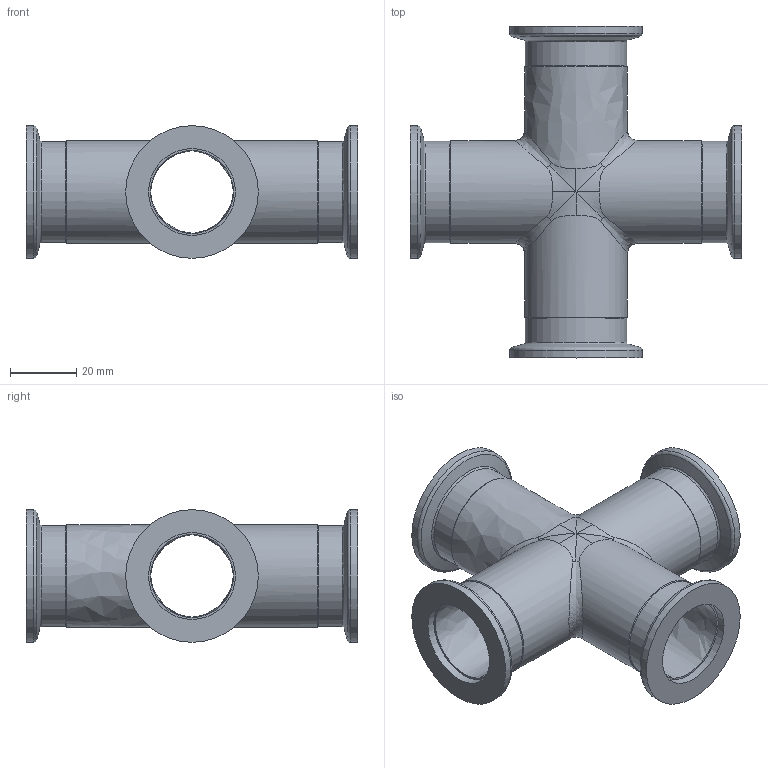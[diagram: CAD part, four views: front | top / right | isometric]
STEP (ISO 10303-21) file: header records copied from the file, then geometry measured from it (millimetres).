
FILE_DESCRIPTION((''),'2;1');
FILE_NAME('W:\M211-268.stp','2006-08-30T11:21:25',('KAA'),(''),'Autodesk Inventor 10','Autodesk Inventor 10','');
FILE_SCHEMA(('CONFIG_CONTROL_DESIGN'));
Length unit declared in the file: millimetre
Products named in the file (1): M211-268
Bounding box: 100 x 100 x 40 mm (x, y, z)
Volume: 49410.5 mm3; surface area: 33697.2 mm2
Topology: 1 solids, 1 shells, 64 faces, 206 edges, 146 vertices
Faces by surface type: bspline 44, cylinder 10, cone 4, plane 4, torus 2
Full cylindrical faces by diameter (mm): 25 x1, 26.2 x2, 30.5 x2, 31 x3, 40 x2
Entity records: 6784 total; most frequent: CARTESIAN_POINT 5178, ORIENTED_EDGE 328, DIRECTION 258, EDGE_CURVE 164, VERTEX_POINT 140, AXIS2_PLACEMENT_3D 129, EDGE_LOOP 108, CIRCLE 96
